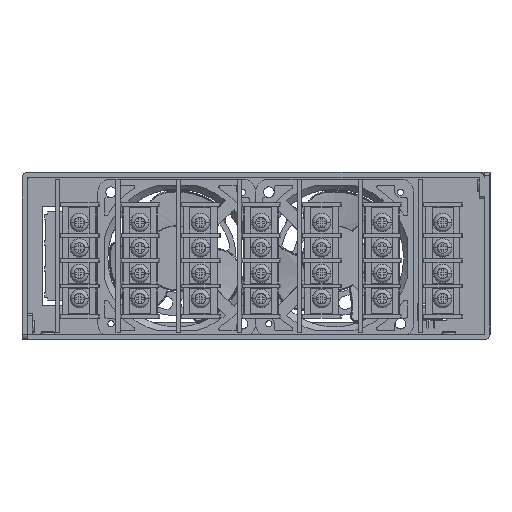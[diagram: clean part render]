
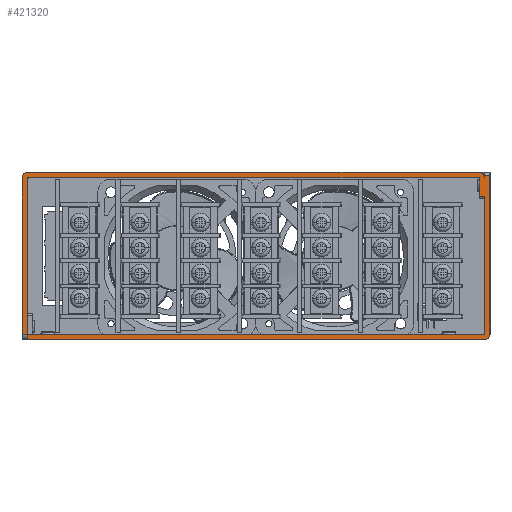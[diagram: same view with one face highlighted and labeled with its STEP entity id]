
A CAD part, left-side view. The second image highlights one B-rep face of the part: STEP entity #421320.
In plain terms, the highlighted planar face has unit normal (-1, 0, 0).
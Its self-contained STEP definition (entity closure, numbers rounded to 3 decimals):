
#243720=CARTESIAN_POINT('',(-2095.796,-300.492,63.5));
#243730=VERTEX_POINT('',#243720);
#243760=CARTESIAN_POINT('',(-2095.796,-128.792,63.5));
#243770=DIRECTION('',(0.,1.,0.));
#243780=VECTOR('',#243770,1.);
#243790=LINE('',#243760,#243780);
#243800=CARTESIAN_POINT('',(-2095.796,-128.892,63.5));
#243810=VERTEX_POINT('',#243800);
#243820=EDGE_CURVE('',#243730,#243810,#243790,.T.);
#251410=CARTESIAN_POINT('',(-2095.796,-128.892,61.5));
#251420=VERTEX_POINT('',#251410);
#251450=CARTESIAN_POINT('',(-2095.796,-304.592,61.5));
#251460=DIRECTION('',(0.,1.,0.));
#251470=VECTOR('',#251460,1.);
#251480=LINE('',#251450,#251470);
#251490=CARTESIAN_POINT('',(-2095.796,-300.492,61.5));
#251500=VERTEX_POINT('',#251490);
#251510=EDGE_CURVE('',#251500,#251420,#251480,.T.);
#265330=CARTESIAN_POINT('',(-2095.796,-128.892,61.4));
#265340=DIRECTION('',(-1.,0.,0.));
#265350=DIRECTION('',(0.,0.,1.));
#265360=AXIS2_PLACEMENT_3D('',#265330,#265340,#265350);
#265370=CIRCLE('',#265360,2.1);
#265380=CARTESIAN_POINT('',(-2095.796,-126.792,61.4));
#265390=VERTEX_POINT('',#265380);
#265400=EDGE_CURVE('',#243810,#265390,#265370,.T.);
#265880=CARTESIAN_POINT('',(-2095.796,-300.492,61.4));
#265890=DIRECTION('',(-1.,0.,0.));
#265900=DIRECTION('',(0.,-1.,0.));
#265910=AXIS2_PLACEMENT_3D('',#265880,#265890,#265900);
#265920=CIRCLE('',#265910,0.1);
#265930=CARTESIAN_POINT('',(-2095.796,-300.592,61.4));
#265940=VERTEX_POINT('',#265930);
#265950=EDGE_CURVE('',#265940,#251500,#265920,.T.);
#267550=CARTESIAN_POINT('',(-2095.796,-302.592,61.4));
#267560=VERTEX_POINT('',#267550);
#267590=CARTESIAN_POINT('',(-2095.796,-300.492,61.4));
#267600=DIRECTION('',(-1.,0.,0.));
#267610=DIRECTION('',(0.,-1.,0.));
#267620=AXIS2_PLACEMENT_3D('',#267590,#267600,#267610);
#267630=CIRCLE('',#267620,2.1);
#267640=EDGE_CURVE('',#267560,#243730,#267630,.T.);
#269940=CARTESIAN_POINT('',(-2095.796,-300.592,
57.693));
#269950=DIRECTION('',(0.,0.,1.));
#269960=VECTOR('',#269950,1.);
#269970=LINE('',#269940,#269960);
#269980=CARTESIAN_POINT('',(-2095.796,-300.592,54.5));
#269990=VERTEX_POINT('',#269980);
#270000=EDGE_CURVE('',#269990,#265940,#269970,.T.);
#270740=CARTESIAN_POINT('',(-2095.796,-290.441,54.5));
#270750=DIRECTION('',(0.,1.,0.));
#270760=VECTOR('',#270750,1.);
#270770=LINE('',#270740,#270760);
#270780=CARTESIAN_POINT('',(-2095.796,-302.592,54.5));
#270790=VERTEX_POINT('',#270780);
#270800=EDGE_CURVE('',#270790,#269990,#270770,.T.);
#280680=CARTESIAN_POINT('',(-2095.796,-128.792,61.4));
#280690=VERTEX_POINT('',#280680);
#281500=CARTESIAN_POINT('',(-2095.796,-128.792,2.));
#281510=VERTEX_POINT('',#281500);
#281540=CARTESIAN_POINT('',(-2095.796,-128.792,61.5));
#281550=DIRECTION('',(0.,0.,-1.));
#281560=VECTOR('',#281550,1.);
#281570=LINE('',#281540,#281560);
#281580=EDGE_CURVE('',#280690,#281510,#281570,.T.);
#284830=CARTESIAN_POINT('',(-2095.796,-126.792,2.));
#284840=VERTEX_POINT('',#284830);
#285060=CARTESIAN_POINT('',(-2095.796,-126.792,61.5));
#285070=DIRECTION('',(0.,0.,-1.));
#285080=VECTOR('',#285070,1.);
#285090=LINE('',#285060,#285080);
#285100=EDGE_CURVE('',#265390,#284840,#285090,.T.);
#291800=CARTESIAN_POINT('',(-2095.796,-304.592,0.));
#291810=DIRECTION('',(0.,-1.,0.));
#291820=VECTOR('',#291810,1.);
#291830=LINE('',#291800,#291820);
#291840=CARTESIAN_POINT('',(-2095.796,-128.792,0.));
#291850=VERTEX_POINT('',#291840);
#291860=CARTESIAN_POINT('',(-2095.796,-302.492,0.));
#291870=VERTEX_POINT('',#291860);
#291880=EDGE_CURVE('',#291850,#291870,#291830,.T.);
#297470=CARTESIAN_POINT('',(-2095.796,-290.441,2.));
#297480=DIRECTION('',(0.,-1.,0.));
#297490=VECTOR('',#297480,1.);
#297500=LINE('',#297470,#297490);
#297510=EDGE_CURVE('',#284840,#281510,#297500,.T.);
#297730=CARTESIAN_POINT('',(-2095.796,-128.892,61.4));
#297740=DIRECTION('',(-1.,0.,0.));
#297750=DIRECTION('',(0.,0.,1.));
#297760=AXIS2_PLACEMENT_3D('',#297730,#297740,#297750);
#297770=CIRCLE('',#297760,0.1);
#297780=EDGE_CURVE('',#251420,#280690,#297770,.T.);
#309890=CARTESIAN_POINT('',(-2095.796,-302.592,62.5));
#309900=VERTEX_POINT('',#309890);
#309930=CARTESIAN_POINT('',(-2095.796,-302.592,
3.807));
#309940=DIRECTION('',(0.,0.,1.));
#309950=VECTOR('',#309940,1.);
#309960=LINE('',#309930,#309950);
#309970=EDGE_CURVE('',#267560,#309900,#309960,.T.);
#310060=CARTESIAN_POINT('',(-2095.796,-302.592,
2.1));
#310070=VERTEX_POINT('',#310060);
#310080=EDGE_CURVE('',#310070,#270790,#309960,.T.);
#314120=CARTESIAN_POINT('',(-2095.796,-304.592,
3.807));
#314130=DIRECTION('',(0.,0.,1.));
#314140=VECTOR('',#314130,1.);
#314150=LINE('',#314120,#314140);
#314160=CARTESIAN_POINT('',(-2095.796,-304.592,
2.1));
#314170=VERTEX_POINT('',#314160);
#314180=CARTESIAN_POINT('',(-2095.796,-304.592,62.5));
#314190=VERTEX_POINT('',#314180);
#314200=EDGE_CURVE('',#314170,#314190,#314150,.T.);
#401990=CARTESIAN_POINT('',(-2095.796,-302.492,2.));
#402000=VERTEX_POINT('',#401990);
#402030=CARTESIAN_POINT('',(-2095.796,-304.592,2.));
#402040=DIRECTION('',(0.,-1.,0.));
#402050=VECTOR('',#402040,1.);
#402060=LINE('',#402030,#402050);
#402070=EDGE_CURVE('',#281510,#402000,#402060,.T.);
#420830=CARTESIAN_POINT('',(-2095.796,-302.592,
-171.993));
#420840=DIRECTION('',(-1.,0.,0.));
#420850=DIRECTION('',(0.,0.,-1.));
#420860=AXIS2_PLACEMENT_3D('',#420830,#420840,#420850);
#420870=PLANE('',#420860);
#420880=ORIENTED_EDGE('',*,*,#402070,.F.);
#420890=CARTESIAN_POINT('',(-2095.796,-302.492,2.1));
#420900=DIRECTION('',(-1.,0.,0.));
#420910=DIRECTION('',(0.,0.,-1.));
#420920=AXIS2_PLACEMENT_3D('',#420890,#420900,#420910);
#420930=CIRCLE('',#420920,0.1);
#420940=EDGE_CURVE('',#402000,#310070,#420930,.T.);
#420950=ORIENTED_EDGE('',*,*,#420940,.F.);
#420960=ORIENTED_EDGE('',*,*,#310080,.F.);
#420970=ORIENTED_EDGE('',*,*,#270800,.F.);
#420980=ORIENTED_EDGE('',*,*,#270000,.F.);
#420990=ORIENTED_EDGE('',*,*,#265950,.F.);
#421000=ORIENTED_EDGE('',*,*,#251510,.F.);
#421010=ORIENTED_EDGE('',*,*,#297780,.F.);
#421020=ORIENTED_EDGE('',*,*,#281580,.F.);
#421030=ORIENTED_EDGE('',*,*,#297510,.T.);
#421040=ORIENTED_EDGE('',*,*,#285100,.T.);
#421050=ORIENTED_EDGE('',*,*,#265400,.T.);
#421060=ORIENTED_EDGE('',*,*,#243820,.T.);
#421070=ORIENTED_EDGE('',*,*,#267640,.T.);
#421080=ORIENTED_EDGE('',*,*,#309970,.F.);
#421090=CARTESIAN_POINT('',(-2095.796,0.,62.5
));
#421100=DIRECTION('',(0.,1.,0.));
#421110=VECTOR('',#421100,1.);
#421120=LINE('',#421090,#421110);
#421130=EDGE_CURVE('',#314190,#309900,#421120,.T.);
#421140=ORIENTED_EDGE('',*,*,#421130,.T.);
#421150=ORIENTED_EDGE('',*,*,#314200,.T.);
#421160=CARTESIAN_POINT('',(-2095.796,-302.492,2.1));
#421170=DIRECTION('',(-1.,0.,0.));
#421180=DIRECTION('',(0.,0.,-1.));
#421190=AXIS2_PLACEMENT_3D('',#421160,#421170,#421180);
#421200=CIRCLE('',#421190,2.1);
#421210=EDGE_CURVE('',#291870,#314170,#421200,.T.);
#421220=ORIENTED_EDGE('',*,*,#421210,.T.);
#421230=ORIENTED_EDGE('',*,*,#291880,.T.);
#421240=CARTESIAN_POINT('',(-2095.796,-128.792,2.));
#421250=DIRECTION('',(0.,0.,-1.));
#421260=VECTOR('',#421250,1.);
#421270=LINE('',#421240,#421260);
#421280=EDGE_CURVE('',#281510,#291850,#421270,.T.);
#421290=ORIENTED_EDGE('',*,*,#421280,.T.);
#421300=EDGE_LOOP('',(#421290,#421230,#421220,#421150,#421140,#421080,
#421070,#421060,#421050,#421040,#421030,#421020,#421010,#421000,#420990,
#420980,#420970,#420960,#420950,#420880));
#421310=FACE_OUTER_BOUND('',#421300,.T.);
#421320=ADVANCED_FACE('',(#421310),#420870,.T.);
